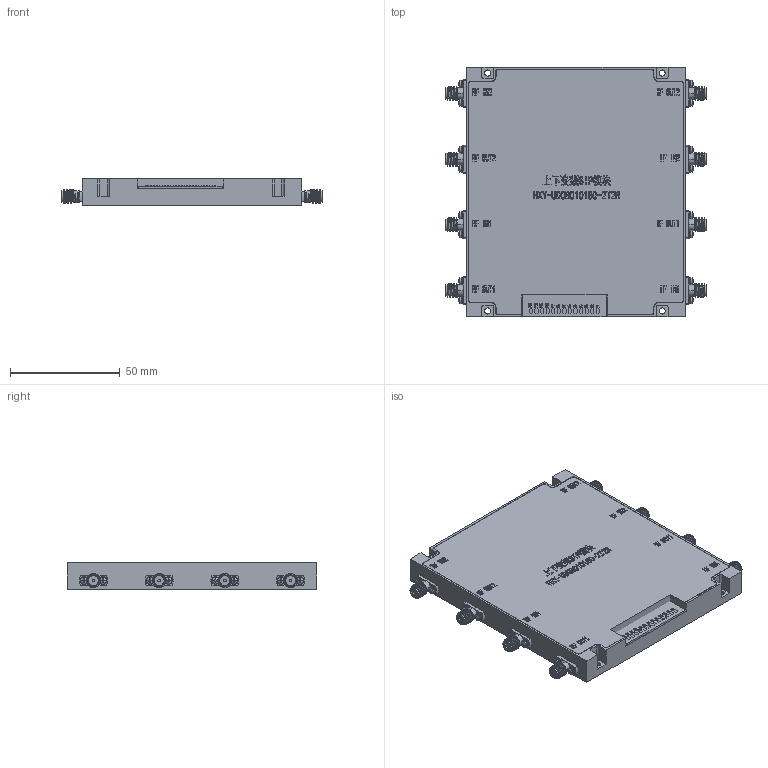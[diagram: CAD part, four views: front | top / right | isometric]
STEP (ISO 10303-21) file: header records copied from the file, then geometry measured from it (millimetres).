
FILE_DESCRIPTION (( 'STEP AP214' ), '1' );
FILE_NAME ('SIPÄ£¿é.STEP', '2026-08-28T12:26:48', ( '' ), ( '' ), 'SwSTEP 2.0', 'SolidWorks 2016', '' );
FILE_SCHEMA (( 'AUTOMOTIVE_DESIGN' ));
Length unit declared in the file: millimetre
Products named in the file (9): plain washers-s series-grade a gb_GB_FASTENER_WASHER_PWSA 1.6; cross recessed pan head screws gb_GB_CROSS_SCREWS_TYPE1 M1.6X4-4  H type-N; 錨璃7^蚾饜极5; SIP耀輸; M1.6蹟隊郪蚾; spring lock washers--normal type gb_GB_FASTENER_WASHER_SW 2; SMA-8.6潔擒; SMA-8.6潔擒樓蹟隊
Assembly tree (16 placements, depth 4):
  SIP耀輸
    SIP耀輸
    SMA-8.6潔擒樓蹟隊  x8
      SMA-8.6潔擒
      M1.6蹟隊郪蚾
        cross recessed pan head screws gb_GB_CROSS_SCREWS_TYPE1 M1.6X4-4  H type-N
        spring lock washers--normal type gb_GB_FASTENER_WASHER_SW 2
        plain washers-s series-grade a gb_GB_FASTENER_WASHER_PWSA 1.6
    錨璃7^蚾饜极5
Bounding box: 119 x 114 x 12 mm (x, y, z)
Volume: 138888.6 mm3; surface area: 38946.8 mm2
Topology: 71 solids, 71 shells, 2597 faces, 6680 edges, 4432 vertices
Faces by surface type: plane 1553, cylinder 584, bspline 460
Entity records: 91635 total; most frequent: CARTESIAN_POINT 37475, ORIENTED_EDGE 8564, DIRECTION 5964, EDGE_CURVE 4282, LINE 3218, VECTOR 3218, VERTEX_POINT 2852, EDGE_LOOP 1810
